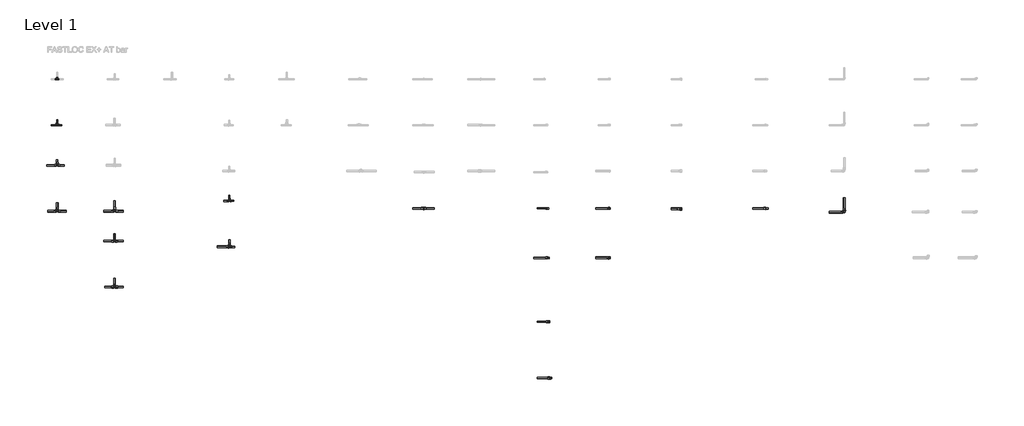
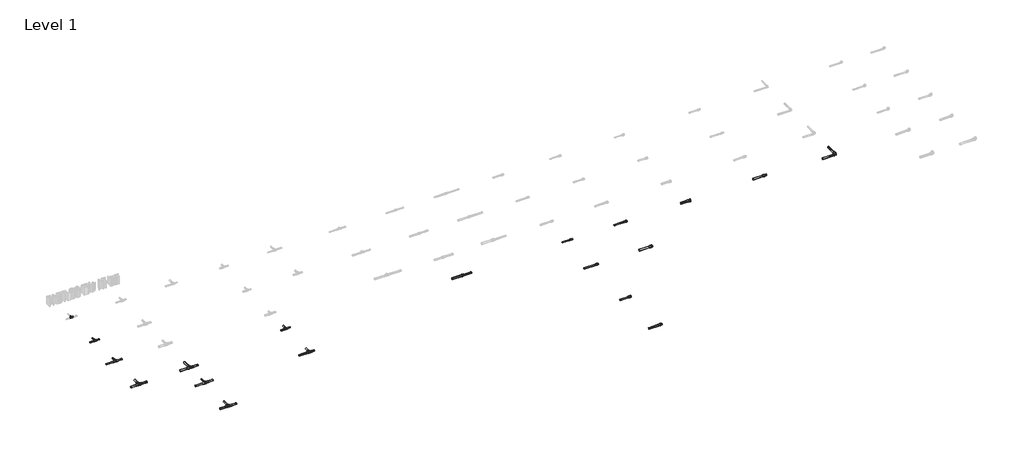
# One storey, part 1 of 16: 36 pipe segments, 19 pipe fittings.
"""IFC4 building model written with IfcOpenShell, lengths in millimetres."""

from ifc_helpers import new_model, si_unit, point, frame, frame_2d, origin, place, context, project, spatial, circle_curve, trimmed, segment, composite_curve, outline, extrude, transform, mapped, element, save
from components import pipe_fitting_378a86a2, pipe_fitting_26206a52, pipe_fitting_e85672de, pipe_fitting_bc9683d6, pipe_fitting_048a34f4, pipe_fitting_29655fe2, pipe_fitting_d5e3d02e, pipe_fitting_bff7a8e0, pipe_fitting_e188583c, pipe_fitting_cd4c1f98, pipe_fitting_85239123, pipe_fitting_8464d15c, pipe_fitting_a2f8d1bd, pipe_fitting_ed7d2527, pipe_fitting_034b971a, pipe_fitting_5e5bb3cb, pipe_fitting_b159315d, pipe_fitting_1c80bece

model = new_model("IFC4")

# Units and contexts
model_context = context("Model", 3, world=origin())
ifc_project = project(units=[si_unit("LENGTHUNIT", "METRE", prefix="MILLI")], contexts=[model_context])

# Site, building, storey
site = spatial("IfcSite", under=ifc_project)
building = spatial("IfcBuilding", under=site)
storey = spatial("IfcBuildingStorey", under=building, Name="Level 1", Elevation=0.0)

# Pipe fittings
placement = place(None, origin())
pipe_fitting_shape = pipe_fitting_378a86a2(model_context)
element("IfcPipeFitting", 1, ObjectType="FASTLOC_T-piece_EX+ : FSL T-Piece EX+ AT", at=placement, inside=storey, context=model_context, shape_type="MappedRepresentation", body=[
    mapped(pipe_fitting_shape, transform((1562.9146925, -6287.6479967, 0.0), x_axis=(1.0, 0.0, 0.0), y_axis=(0.0, 1.0, 0.0), z_axis=(0.0, 0.0, 1.0))),
])
pipe_fitting_2_shape = pipe_fitting_26206a52(model_context)
element("IfcPipeFitting", 2, ObjectType="FASTLOC_T-piece_EX+ : FSL T-Piece EX+ AT", at=placement, inside=storey, context=model_context, shape_type="MappedRepresentation", body=[
    mapped(pipe_fitting_2_shape, transform((1562.9146925, -7087.6479967, 0.0), x_axis=(1.0, 0.0, 0.0), y_axis=(0.0, 1.0, 0.0), z_axis=(0.0, 0.0, 1.0))),
])
pipe_fitting_3_shape = pipe_fitting_e85672de(model_context)
element("IfcPipeFitting", 3, ObjectType="FASTLOC_T-piece_EX+ : FSL T-Piece EX+ AT", at=placement, inside=storey, context=model_context, shape_type="MappedRepresentation", body=[
    mapped(pipe_fitting_3_shape, transform((1562.9146925, -7787.6479967, 0.0), x_axis=(1.0, 0.0, 0.0), y_axis=(0.0, 1.0, 0.0), z_axis=(0.0, 0.0, 1.0))),
])
pipe_fitting_4_shape = pipe_fitting_bc9683d6(model_context)
element("IfcPipeFitting", 4, ObjectType="FASTLOC_T-piece_EX+ : FSL T-Piece EX+ AT", at=placement, inside=storey, context=model_context, shape_type="MappedRepresentation", body=[
    mapped(pipe_fitting_4_shape, transform((1562.9146925, -8587.6479967, 0.0), x_axis=(1.0, 0.0, 0.0), y_axis=(0.0, 1.0, 0.0), z_axis=(0.0, 0.0, 1.0))),
])
element("IfcPipeFitting", 5, ObjectType="FASTLOC_T-piece_EX+ : FSL T-Piece EX+ AT", at=placement, inside=storey, context=model_context, shape_type="MappedRepresentation", body=[
    mapped(pipe_fitting_4_shape, transform((2562.9146925, -8587.6479967, 0.0), x_axis=(1.0, 0.0, 0.0), y_axis=(0.0, 1.0, 0.0), z_axis=(0.0, 0.0, 1.0))),
])
pipe_fitting_5_shape = pipe_fitting_048a34f4(model_context)
element("IfcPipeFitting", 6, ObjectType="FASTLOC_T-piece_EX+ : FSL T-Piece EX+ AT", at=placement, inside=storey, context=model_context, shape_type="MappedRepresentation", body=[
    mapped(pipe_fitting_5_shape, transform((2562.9146925, -9107.6479967, 0.0), x_axis=(1.0, 0.0, 0.0), y_axis=(0.0, 1.0, 0.0), z_axis=(0.0, 0.0, 1.0))),
])
pipe_fitting_6_shape = pipe_fitting_29655fe2(model_context)
element("IfcPipeFitting", 7, ObjectType="FASTLOC_T-piece_EX+ : FSL T-Piece EX+ AT", at=placement, inside=storey, context=model_context, shape_type="MappedRepresentation", body=[
    mapped(pipe_fitting_6_shape, transform((2562.9146925, -9907.6479967, 0.0), x_axis=(1.0, 0.0, 0.0), y_axis=(0.0, 1.0, 0.0), z_axis=(0.0, 0.0, 1.0))),
])
pipe_fitting_7_shape = pipe_fitting_d5e3d02e(model_context)
element("IfcPipeFitting", 8, ObjectType="FASTLOC_T-piece_EX+ : FSL T-Piece EX+ AT", at=placement, inside=storey, context=model_context, shape_type="MappedRepresentation", body=[
    mapped(pipe_fitting_7_shape, transform((4562.9146925, -9207.6479967, 0.0), x_axis=(1.0, 0.0, 0.0), y_axis=(0.0, 1.0, 0.0), z_axis=(0.0, 0.0, 1.0))),
])
pipe_fitting_8_shape = pipe_fitting_bff7a8e0(model_context)
element("IfcPipeFitting", 9, ObjectType="FASTLOC_T-piece_EX+ : FSL T-Piece EX+ AT", at=placement, inside=storey, context=model_context, shape_type="MappedRepresentation", body=[
    mapped(pipe_fitting_8_shape, transform((4562.9146925, -8407.6479967, 0.0), x_axis=(1.0, 0.0, 0.0), y_axis=(0.0, 1.0, 0.0), z_axis=(0.0, 0.0, 1.0))),
])
pipe_fitting_9_shape = pipe_fitting_e188583c(model_context)
element("IfcPipeFitting", 10, ObjectType="FASTLOC Copper press adapter RX+ : FSL RX+ AT", at=placement, inside=storey, context=model_context, shape_type="MappedRepresentation", body=[
    mapped(pipe_fitting_9_shape, transform((13915.3824015, -8539.0537829, 0.0), x_axis=(1.0, 0.0, 0.0), y_axis=(0.0, 1.0, 0.0), z_axis=(0.0, 0.0, 1.0))),
])
pipe_fitting_10_shape = pipe_fitting_cd4c1f98(model_context)
element("IfcPipeFitting", 11, ObjectType="FASTLOC_Adapter_EX+, with internal thread : FSL A internal AT", at=placement, inside=storey, context=model_context, shape_type="MappedRepresentation", body=[
    mapped(pipe_fitting_10_shape, transform((11179.5143796, -8539.0537829, 0.0), x_axis=(1.0, 0.0, 0.0), y_axis=(0.0, 1.0, 0.0), z_axis=(0.0, 0.0, 1.0))),
])
pipe_fitting_11_shape = pipe_fitting_85239123(model_context)
element("IfcPipeFitting", 12, ObjectType="FASTLOC_Adapter_EX+, with internal thread : FSL A internal AT", at=placement, inside=storey, context=model_context, shape_type="MappedRepresentation", body=[
    mapped(pipe_fitting_11_shape, transform((11179.5143796, -9399.407392, 0.0), x_axis=(1.0, 0.0, 0.0), y_axis=(0.0, 1.0, 0.0), z_axis=(0.0, 0.0, 1.0))),
])
pipe_fitting_12_shape = pipe_fitting_8464d15c(model_context)
element("IfcPipeFitting", 13, ObjectType="FASTLOC_Coupling equal EX+ : FSL C EX AT", at=placement, inside=storey, context=model_context, shape_type="MappedRepresentation", body=[
    mapped(pipe_fitting_12_shape, transform((7947.6401575, -8539.0537829, 0.0), x_axis=(1.0, 0.0, 0.0), y_axis=(0.0, 1.0, 0.0), z_axis=(0.0, 0.0, 1.0))),
])
pipe_fitting_13_shape = pipe_fitting_a2f8d1bd(model_context)
element("IfcPipeFitting", 14, ObjectType="FASTLOC_Corner EX+ : FSL C EX+ AT", at=placement, inside=storey, context=model_context, shape_type="MappedRepresentation", body=[
    mapped(pipe_fitting_13_shape, transform((15275.3824015, -8604.9640428, 0.0), x_axis=(1.0, 0.0, 0.0), y_axis=(0.0, 1.0, 0.0), z_axis=(0.0, 0.0, 1.0))),
])
pipe_fitting_14_shape = pipe_fitting_ed7d2527(model_context)
element("IfcPipeFitting", 15, ObjectType="FASTLOC_Adapter_RX+, with external thread : FSL A C external EX+ AT", at=placement, inside=storey, context=model_context, shape_type="MappedRepresentation", body=[
    mapped(pipe_fitting_14_shape, transform((10098.2332092, -8539.0537829, 0.0), x_axis=(1.0, 0.0, 0.0), y_axis=(0.0, 1.0, 0.0), z_axis=(0.0, 0.0, 1.0))),
])
pipe_fitting_15_shape = pipe_fitting_034b971a(model_context)
element("IfcPipeFitting", 16, ObjectType="FASTLOC_Adapter_RX+, with external thread : FSL A C external EX+ AT", at=placement, inside=storey, context=model_context, shape_type="MappedRepresentation", body=[
    mapped(pipe_fitting_15_shape, transform((10110.8952889, -9399.407392, 0.0), x_axis=(1.0, 0.0, 0.0), y_axis=(0.0, 1.0, 0.0), z_axis=(0.0, 0.0, 1.0))),
])
pipe_fitting_16_shape = pipe_fitting_5e5bb3cb(model_context)
element("IfcPipeFitting", 17, ObjectType="FASTLOC_Adapter_RX+, with external thread : FSL A C external EX+ AT", at=placement, inside=storey, context=model_context, shape_type="MappedRepresentation", body=[
    mapped(pipe_fitting_16_shape, transform((10115.9601208, -10513.6704117, 0.0), x_axis=(1.0, 0.0, 0.0), y_axis=(0.0, 1.0, 0.0), z_axis=(0.0, 0.0, 1.0))),
])
pipe_fitting_17_shape = pipe_fitting_b159315d(model_context)
element("IfcPipeFitting", 18, ObjectType="FASTLOC_Adapter_RX+, with external thread : FSL A C external EX+ AT", at=placement, inside=storey, context=model_context, shape_type="MappedRepresentation", body=[
    mapped(pipe_fitting_17_shape, transform((10153.9463601, -11493.7153858, 0.0), x_axis=(1.0, 0.0, 0.0), y_axis=(0.0, 1.0, 0.0), z_axis=(0.0, 0.0, 1.0))),
])
pipe_fitting_18_shape = pipe_fitting_1c80bece(model_context)
element("IfcPipeFitting", 19, ObjectType="FASTLOC_Adapter with union nut EX+ : FSL A union nut EX+ DE", at=placement, inside=storey, context=model_context, shape_type="MappedRepresentation", body=[
    mapped(pipe_fitting_18_shape, transform((12418.3503777, -8547.0537829, 0.0), x_axis=(1.0, 0.0, 0.0), y_axis=(0.0, 1.0, 0.0), z_axis=(0.0, 0.0, 1.0))),
])

# Pipe segments
element("IfcPipeSegment", 20, ObjectType="FASTLOC EX+ ML AT bar", at=placement, inside=storey, context=model_context, shape_type="SweptSolid", body=[
    extrude(outline(composite_curve([segment(trimmed(circle_curve(frame_2d((0.0, 15275.3824015)), 16.0), [point((0.0, 15291.3824015))], [point((16.0, 15275.3824015))], False, "CARTESIAN"), True, "CONTINUOUS"), segment(trimmed(circle_curve(frame_2d((0.0, 15275.3824015)), 16.0), [point((16.0, 15275.3824015))], [point((0.0, 15259.3824015))], False, "CARTESIAN"), True, "CONTINUOUS"), segment(trimmed(circle_curve(frame_2d((0.0, 15275.3824015)), 16.0), [point((0.0, 15259.3824015))], [point((-16.0, 15275.3824015))], False, "CARTESIAN"), True, "CONTINUOUS"), segment(trimmed(circle_curve(frame_2d((0.0, 15275.3824015)), 16.0), [point((-16.0, 15275.3824015))], [point((0.0, 15291.3824015))], False, "CARTESIAN"), True, "CONTINUOUS")], self_intersect=False)), frame((0.0, -8569.9640428, 0.0), z_axis=(0.0, 1.0, 0.0), x_axis=(0.0, 0.0, 1.0)), (0.0, 0.0, 1.0), 220.0),
])
element("IfcPipeSegment", 21, ObjectType="FASTLOC EX+ ML AT bar", at=placement, inside=storey, context=model_context, shape_type="SweptSolid", body=[
    extrude(outline(composite_curve([segment(trimmed(circle_curve(frame_2d((-8604.9640428, 0.0)), 16.0), [point((-8588.9640428, 0.0))], [point((-8604.9640428, -16.0))], False, "CARTESIAN"), True, "CONTINUOUS"), segment(trimmed(circle_curve(frame_2d((-8604.9640428, 0.0)), 16.0), [point((-8604.9640428, -16.0))], [point((-8620.9640428, 0.0))], False, "CARTESIAN"), True, "CONTINUOUS"), segment(trimmed(circle_curve(frame_2d((-8604.9640428, 0.0)), 16.0), [point((-8620.9640428, 0.0))], [point((-8604.9640428, 16.0))], False, "CARTESIAN"), True, "CONTINUOUS"), segment(trimmed(circle_curve(frame_2d((-8604.9640428, 0.0)), 16.0), [point((-8604.9640428, 16.0))], [point((-8588.9640428, 0.0))], False, "CARTESIAN"), True, "CONTINUOUS")], self_intersect=False)), frame((15013.2824015, 0.0, 0.0), z_axis=(1.0, 0.0, 0.0), x_axis=(0.0, 1.0, 0.0)), (0.0, 0.0, 1.0), 227.1),
])
element("IfcPipeSegment", 22, ObjectType="FASTLOC EX+ ML AT bar", at=placement, inside=storey, context=model_context, shape_type="SweptSolid", body=[
    extrude(outline(composite_curve([segment(trimmed(circle_curve(frame_2d((-8539.0537829, 0.0)), 16.0), [point((-8523.0537829, 0.0))], [point((-8539.0537829, -16.0))], False, "CARTESIAN"), True, "CONTINUOUS"), segment(trimmed(circle_curve(frame_2d((-8539.0537829, 0.0)), 16.0), [point((-8539.0537829, -16.0))], [point((-8555.0537829, 0.0))], False, "CARTESIAN"), True, "CONTINUOUS"), segment(trimmed(circle_curve(frame_2d((-8539.0537829, 0.0)), 16.0), [point((-8555.0537829, 0.0))], [point((-8539.0537829, 16.0))], False, "CARTESIAN"), True, "CONTINUOUS"), segment(trimmed(circle_curve(frame_2d((-8539.0537829, 0.0)), 16.0), [point((-8539.0537829, 16.0))], [point((-8523.0537829, 0.0))], False, "CARTESIAN"), True, "CONTINUOUS")], self_intersect=False)), frame((13682.2824015, 0.0, 0.0), z_axis=(1.0, 0.0, 0.0), x_axis=(0.0, 1.0, 0.0)), (0.0, 0.0, 1.0), 220.0),
])
element("IfcPipeSegment", 23, ObjectType="FASTLOC EX+ ML AT bar", at=placement, inside=storey, context=model_context, shape_type="SweptSolid", body=[
    extrude(outline(composite_curve([segment(trimmed(circle_curve(frame_2d((-8547.0537829, 0.0)), 16.0), [point((-8531.0537829, 0.0))], [point((-8547.0537829, -16.0))], False, "CARTESIAN"), True, "CONTINUOUS"), segment(trimmed(circle_curve(frame_2d((-8547.0537829, 0.0)), 16.0), [point((-8547.0537829, -16.0))], [point((-8563.0537829, 0.0))], False, "CARTESIAN"), True, "CONTINUOUS"), segment(trimmed(circle_curve(frame_2d((-8547.0537829, 0.0)), 16.0), [point((-8563.0537829, 0.0))], [point((-8547.0537829, 16.0))], False, "CARTESIAN"), True, "CONTINUOUS"), segment(trimmed(circle_curve(frame_2d((-8547.0537829, 0.0)), 16.0), [point((-8547.0537829, 16.0))], [point((-8531.0537829, 0.0))], False, "CARTESIAN"), True, "CONTINUOUS")], self_intersect=False)), frame((12259.3503777, 0.0, 0.0), z_axis=(1.0, 0.0, 0.0), x_axis=(0.0, 1.0, 0.0)), (0.0, 0.0, 1.0), 147.5),
])
element("IfcPipeSegment", 24, ObjectType="FASTLOC EX+ ML AT bar", at=placement, inside=storey, context=model_context, shape_type="SweptSolid", body=[
    extrude(outline(composite_curve([segment(trimmed(circle_curve(frame_2d((-8539.0537829, 0.0)), 12.5), [point((-8526.5537829, 0.0))], [point((-8539.0537829, -12.5))], False, "CARTESIAN"), True, "CONTINUOUS"), segment(trimmed(circle_curve(frame_2d((-8539.0537829, 0.0)), 12.5), [point((-8539.0537829, -12.5))], [point((-8551.5537829, 0.0))], False, "CARTESIAN"), True, "CONTINUOUS"), segment(trimmed(circle_curve(frame_2d((-8539.0537829, 0.0)), 12.5), [point((-8551.5537829, 0.0))], [point((-8539.0537829, 12.5))], False, "CARTESIAN"), True, "CONTINUOUS"), segment(trimmed(circle_curve(frame_2d((-8539.0537829, 0.0)), 12.5), [point((-8539.0537829, 12.5))], [point((-8526.5537829, 0.0))], False, "CARTESIAN"), True, "CONTINUOUS")], self_intersect=False)), frame((10946.6143796, 0.0, 0.0), z_axis=(1.0, 0.0, 0.0), x_axis=(0.0, 1.0, 0.0)), (0.0, 0.0, 1.0), 220.0),
])
element("IfcPipeSegment", 25, ObjectType="FASTLOC EX+ ML AT bar", at=placement, inside=storey, context=model_context, shape_type="SweptSolid", body=[
    extrude(outline(composite_curve([segment(trimmed(circle_curve(frame_2d((-9399.407392, 0.0)), 16.0), [point((-9383.407392, 0.0))], [point((-9399.407392, -16.0))], False, "CARTESIAN"), True, "CONTINUOUS"), segment(trimmed(circle_curve(frame_2d((-9399.407392, 0.0)), 16.0), [point((-9399.407392, -16.0))], [point((-9415.407392, 0.0))], False, "CARTESIAN"), True, "CONTINUOUS"), segment(trimmed(circle_curve(frame_2d((-9399.407392, 0.0)), 16.0), [point((-9415.407392, 0.0))], [point((-9399.407392, 16.0))], False, "CARTESIAN"), True, "CONTINUOUS"), segment(trimmed(circle_curve(frame_2d((-9399.407392, 0.0)), 16.0), [point((-9399.407392, 16.0))], [point((-9383.407392, 0.0))], False, "CARTESIAN"), True, "CONTINUOUS")], self_intersect=False)), frame((10946.6143796, 0.0, 0.0), z_axis=(1.0, 0.0, 0.0), x_axis=(0.0, 1.0, 0.0)), (0.0, 0.0, 1.0), 218.4),
])
element("IfcPipeSegment", 26, ObjectType="FASTLOC EX+ ML AT bar", at=placement, inside=storey, context=model_context, shape_type="SweptSolid", body=[
    extrude(outline(composite_curve([segment(trimmed(circle_curve(frame_2d((-10513.6704117, 0.0)), 12.5), [point((-10501.1704117, 0.0))], [point((-10513.6704117, -12.5))], False, "CARTESIAN"), True, "CONTINUOUS"), segment(trimmed(circle_curve(frame_2d((-10513.6704117, 0.0)), 12.5), [point((-10513.6704117, -12.5))], [point((-10526.1704117, 0.0))], False, "CARTESIAN"), True, "CONTINUOUS"), segment(trimmed(circle_curve(frame_2d((-10513.6704117, 0.0)), 12.5), [point((-10526.1704117, 0.0))], [point((-10513.6704117, 12.5))], False, "CARTESIAN"), True, "CONTINUOUS"), segment(trimmed(circle_curve(frame_2d((-10513.6704117, 0.0)), 12.5), [point((-10513.6704117, 12.5))], [point((-10501.1704117, 0.0))], False, "CARTESIAN"), True, "CONTINUOUS")], self_intersect=False)), frame((9926.5601208, 0.0, 0.0), z_axis=(1.0, 0.0, 0.0), x_axis=(0.0, 1.0, 0.0)), (0.0, 0.0, 1.0), 180.0),
])
element("IfcPipeSegment", 27, ObjectType="FASTLOC EX+ ML AT bar", at=placement, inside=storey, context=model_context, shape_type="SweptSolid", body=[
    extrude(outline(composite_curve([segment(trimmed(circle_curve(frame_2d((-9399.407392, 0.0)), 12.5), [point((-9386.907392, 0.0))], [point((-9399.407392, -12.5))], False, "CARTESIAN"), True, "CONTINUOUS"), segment(trimmed(circle_curve(frame_2d((-9399.407392, 0.0)), 12.5), [point((-9399.407392, -12.5))], [point((-9411.907392, 0.0))], False, "CARTESIAN"), True, "CONTINUOUS"), segment(trimmed(circle_curve(frame_2d((-9399.407392, 0.0)), 12.5), [point((-9411.907392, 0.0))], [point((-9399.407392, 12.5))], False, "CARTESIAN"), True, "CONTINUOUS"), segment(trimmed(circle_curve(frame_2d((-9399.407392, 0.0)), 12.5), [point((-9399.407392, 12.5))], [point((-9386.907392, 0.0))], False, "CARTESIAN"), True, "CONTINUOUS")], self_intersect=False)), frame((9861.4952889, 0.0, 0.0), z_axis=(1.0, 0.0, 0.0), x_axis=(0.0, 1.0, 0.0)), (0.0, 0.0, 1.0), 240.0),
])
element("IfcPipeSegment", 28, ObjectType="FASTLOC EX+ ML AT bar", at=placement, inside=storey, context=model_context, shape_type="SweptSolid", body=[
    extrude(outline(composite_curve([segment(trimmed(circle_curve(frame_2d((-8539.0537829, 0.0)), 10.0), [point((-8529.0537829, 0.0))], [point((-8539.0537829, -10.0))], False, "CARTESIAN"), True, "CONTINUOUS"), segment(trimmed(circle_curve(frame_2d((-8539.0537829, 0.0)), 10.0), [point((-8539.0537829, -10.0))], [point((-8549.0537829, 0.0))], False, "CARTESIAN"), True, "CONTINUOUS"), segment(trimmed(circle_curve(frame_2d((-8539.0537829, 0.0)), 10.0), [point((-8549.0537829, 0.0))], [point((-8539.0537829, 10.0))], False, "CARTESIAN"), True, "CONTINUOUS"), segment(trimmed(circle_curve(frame_2d((-8539.0537829, 0.0)), 10.0), [point((-8539.0537829, 10.0))], [point((-8529.0537829, 0.0))], False, "CARTESIAN"), True, "CONTINUOUS")], self_intersect=False)), frame((9926.5601208, 0.0, 0.0), z_axis=(1.0, 0.0, 0.0), x_axis=(0.0, 1.0, 0.0)), (0.0, 0.0, 1.0), 162.3730883),
])
element("IfcPipeSegment", 29, ObjectType="FASTLOC EX+ ML AT bar", at=placement, inside=storey, context=model_context, shape_type="SweptSolid", body=[
    extrude(outline(composite_curve([segment(trimmed(circle_curve(frame_2d((-8539.0537829, 0.0)), 16.0), [point((-8555.0537829, 0.0))], [point((-8539.0537829, 16.0))], False, "CARTESIAN"), True, "CONTINUOUS"), segment(trimmed(circle_curve(frame_2d((-8539.0537829, 0.0)), 16.0), [point((-8539.0537829, 16.0))], [point((-8523.0537829, 0.0))], False, "CARTESIAN"), True, "CONTINUOUS"), segment(trimmed(circle_curve(frame_2d((-8539.0537829, 0.0)), 16.0), [point((-8523.0537829, 0.0))], [point((-8539.0537829, -16.0))], False, "CARTESIAN"), True, "CONTINUOUS"), segment(trimmed(circle_curve(frame_2d((-8539.0537829, 0.0)), 16.0), [point((-8539.0537829, -16.0))], [point((-8555.0537829, 0.0))], False, "CARTESIAN"), True, "CONTINUOUS")], self_intersect=False)), frame((7957.6401575, 0.0, 0.0), z_axis=(1.0, 0.0, 0.0), x_axis=(0.0, 1.0, 0.0)), (0.0, 0.0, 1.0), 178.0),
])
element("IfcPipeSegment", 30, ObjectType="FASTLOC EX+ ML AT bar", at=placement, inside=storey, context=model_context, shape_type="SweptSolid", body=[
    extrude(outline(composite_curve([segment(trimmed(circle_curve(frame_2d((-8539.0537829, 0.0)), 16.0), [point((-8523.0537829, 0.0))], [point((-8539.0537829, -16.0))], False, "CARTESIAN"), True, "CONTINUOUS"), segment(trimmed(circle_curve(frame_2d((-8539.0537829, 0.0)), 16.0), [point((-8539.0537829, -16.0))], [point((-8555.0537829, 0.0))], False, "CARTESIAN"), True, "CONTINUOUS"), segment(trimmed(circle_curve(frame_2d((-8539.0537829, 0.0)), 16.0), [point((-8555.0537829, 0.0))], [point((-8539.0537829, 16.0))], False, "CARTESIAN"), True, "CONTINUOUS"), segment(trimmed(circle_curve(frame_2d((-8539.0537829, 0.0)), 16.0), [point((-8539.0537829, 16.0))], [point((-8523.0537829, 0.0))], False, "CARTESIAN"), True, "CONTINUOUS")], self_intersect=False)), frame((7757.6401575, 0.0, 0.0), z_axis=(1.0, 0.0, 0.0), x_axis=(0.0, 1.0, 0.0)), (0.0, 0.0, 1.0), 180.0),
])
element("IfcPipeSegment", 31, ObjectType="FASTLOC EX+ ML AT bar", at=placement, inside=storey, context=model_context, shape_type="SweptSolid", body=[
    extrude(outline(composite_curve([segment(trimmed(circle_curve(frame_2d((-8407.6479967, 0.0)), 10.0), [point((-8417.6479967, 0.0))], [point((-8407.6479967, 10.0))], False, "CARTESIAN"), True, "CONTINUOUS"), segment(trimmed(circle_curve(frame_2d((-8407.6479967, 0.0)), 10.0), [point((-8407.6479967, 10.0))], [point((-8397.6479967, 0.0))], False, "CARTESIAN"), True, "CONTINUOUS"), segment(trimmed(circle_curve(frame_2d((-8407.6479967, 0.0)), 10.0), [point((-8397.6479967, 0.0))], [point((-8407.6479967, -10.0))], False, "CARTESIAN"), True, "CONTINUOUS"), segment(trimmed(circle_curve(frame_2d((-8407.6479967, 0.0)), 10.0), [point((-8407.6479967, -10.0))], [point((-8417.6479967, 0.0))], False, "CARTESIAN"), True, "CONTINUOUS")], self_intersect=False)), frame((4580.3146925, 0.0, 0.0), z_axis=(1.0, 0.0, 0.0), x_axis=(0.0, 1.0, 0.0)), (0.0, 0.0, 1.0), 60.0),
])
element("IfcPipeSegment", 32, ObjectType="FASTLOC EX+ ML AT bar", at=placement, inside=storey, context=model_context, shape_type="SweptSolid", body=[
    extrude(outline(composite_curve([segment(trimmed(circle_curve(frame_2d((0.0, 4562.9146925)), 10.0), [point((0.0, 4572.9146925))], [point((10.0, 4562.9146925))], False, "CARTESIAN"), True, "CONTINUOUS"), segment(trimmed(circle_curve(frame_2d((0.0, 4562.9146925)), 10.0), [point((10.0, 4562.9146925))], [point((0.0, 4552.9146925))], False, "CARTESIAN"), True, "CONTINUOUS"), segment(trimmed(circle_curve(frame_2d((0.0, 4562.9146925)), 10.0), [point((0.0, 4552.9146925))], [point((-10.0, 4562.9146925))], False, "CARTESIAN"), True, "CONTINUOUS"), segment(trimmed(circle_curve(frame_2d((0.0, 4562.9146925)), 10.0), [point((-10.0, 4562.9146925))], [point((0.0, 4572.9146925))], False, "CARTESIAN"), True, "CONTINUOUS")], self_intersect=False)), frame((0.0, -8378.4479967, 0.0), z_axis=(0.0, 1.0, 0.0), x_axis=(0.0, 0.0, 1.0)), (0.0, 0.0, 1.0), 65.0),
])
element("IfcPipeSegment", 33, ObjectType="FASTLOC EX+ ML AT bar", at=placement, inside=storey, context=model_context, shape_type="SweptSolid", body=[
    extrude(outline(composite_curve([segment(trimmed(circle_curve(frame_2d((-8407.6479967, 0.0)), 12.5), [point((-8395.1479967, 0.0))], [point((-8407.6479967, -12.5))], False, "CARTESIAN"), True, "CONTINUOUS"), segment(trimmed(circle_curve(frame_2d((-8407.6479967, 0.0)), 12.5), [point((-8407.6479967, -12.5))], [point((-8420.1479967, 0.0))], False, "CARTESIAN"), True, "CONTINUOUS"), segment(trimmed(circle_curve(frame_2d((-8407.6479967, 0.0)), 12.5), [point((-8420.1479967, 0.0))], [point((-8407.6479967, 12.5))], False, "CARTESIAN"), True, "CONTINUOUS"), segment(trimmed(circle_curve(frame_2d((-8407.6479967, 0.0)), 12.5), [point((-8407.6479967, 12.5))], [point((-8395.1479967, 0.0))], False, "CARTESIAN"), True, "CONTINUOUS")], self_intersect=False)), frame((4464.6146925, 0.0, 0.0), z_axis=(1.0, 0.0, 0.0), x_axis=(0.0, 1.0, 0.0)), (0.0, 0.0, 1.0), 80.0),
])
element("IfcPipeSegment", 34, ObjectType="FASTLOC EX+ ML AT bar", at=placement, inside=storey, context=model_context, shape_type="SweptSolid", body=[
    extrude(outline(composite_curve([segment(trimmed(circle_curve(frame_2d((-9207.6479967, 0.0)), 12.5), [point((-9220.1479967, 0.0))], [point((-9207.6479967, 12.5))], False, "CARTESIAN"), True, "CONTINUOUS"), segment(trimmed(circle_curve(frame_2d((-9207.6479967, 0.0)), 12.5), [point((-9207.6479967, 12.5))], [point((-9195.1479967, 0.0))], False, "CARTESIAN"), True, "CONTINUOUS"), segment(trimmed(circle_curve(frame_2d((-9207.6479967, 0.0)), 12.5), [point((-9195.1479967, 0.0))], [point((-9207.6479967, -12.5))], False, "CARTESIAN"), True, "CONTINUOUS"), segment(trimmed(circle_curve(frame_2d((-9207.6479967, 0.0)), 12.5), [point((-9207.6479967, -12.5))], [point((-9220.1479967, 0.0))], False, "CARTESIAN"), True, "CONTINUOUS")], self_intersect=False)), frame((4583.0146925, 0.0, 0.0), z_axis=(1.0, 0.0, 0.0), x_axis=(0.0, 1.0, 0.0)), (0.0, 0.0, 1.0), 70.4),
])
element("IfcPipeSegment", 35, ObjectType="FASTLOC EX+ ML AT bar", at=placement, inside=storey, context=model_context, shape_type="SweptSolid", body=[
    extrude(outline(composite_curve([segment(trimmed(circle_curve(frame_2d((0.0, 4562.9146925)), 12.5), [point((0.0, 4575.4146925))], [point((12.5, 4562.9146925))], False, "CARTESIAN"), True, "CONTINUOUS"), segment(trimmed(circle_curve(frame_2d((0.0, 4562.9146925)), 12.5), [point((12.5, 4562.9146925))], [point((0.0, 4550.4146925))], False, "CARTESIAN"), True, "CONTINUOUS"), segment(trimmed(circle_curve(frame_2d((0.0, 4562.9146925)), 12.5), [point((0.0, 4550.4146925))], [point((-12.5, 4562.9146925))], False, "CARTESIAN"), True, "CONTINUOUS"), segment(trimmed(circle_curve(frame_2d((0.0, 4562.9146925)), 12.5), [point((-12.5, 4562.9146925))], [point((0.0, 4575.4146925))], False, "CARTESIAN"), True, "CONTINUOUS")], self_intersect=False)), frame((0.0, -9173.2479967, 0.0), z_axis=(0.0, 1.0, 0.0), x_axis=(0.0, 0.0, 1.0)), (0.0, 0.0, 1.0), 85.0),
])
element("IfcPipeSegment", 36, ObjectType="FASTLOC EX+ ML AT bar", at=placement, inside=storey, context=model_context, shape_type="SweptSolid", body=[
    extrude(outline(composite_curve([segment(trimmed(circle_curve(frame_2d((-9207.6479967, 0.0)), 16.0), [point((-9191.6479967, 0.0))], [point((-9207.6479967, -16.0))], False, "CARTESIAN"), True, "CONTINUOUS"), segment(trimmed(circle_curve(frame_2d((-9207.6479967, 0.0)), 16.0), [point((-9207.6479967, -16.0))], [point((-9223.6479967, 0.0))], False, "CARTESIAN"), True, "CONTINUOUS"), segment(trimmed(circle_curve(frame_2d((-9207.6479967, 0.0)), 16.0), [point((-9223.6479967, 0.0))], [point((-9207.6479967, 16.0))], False, "CARTESIAN"), True, "CONTINUOUS"), segment(trimmed(circle_curve(frame_2d((-9207.6479967, 0.0)), 16.0), [point((-9207.6479967, 16.0))], [point((-9191.6479967, 0.0))], False, "CARTESIAN"), True, "CONTINUOUS")], self_intersect=False)), frame((4355.8146925, 0.0, 0.0), z_axis=(1.0, 0.0, 0.0), x_axis=(0.0, 1.0, 0.0)), (0.0, 0.0, 1.0), 185.0),
])
element("IfcPipeSegment", 37, ObjectType="FASTLOC EX+ ML AT bar", at=placement, inside=storey, context=model_context, shape_type="SweptSolid", body=[
    extrude(outline(composite_curve([segment(trimmed(circle_curve(frame_2d((-8587.6479967, 0.0)), 16.0), [point((-8603.6479967, 0.0))], [point((-8587.6479967, 16.0))], False, "CARTESIAN"), True, "CONTINUOUS"), segment(trimmed(circle_curve(frame_2d((-8587.6479967, 0.0)), 16.0), [point((-8587.6479967, 16.0))], [point((-8571.6479967, 0.0))], False, "CARTESIAN"), True, "CONTINUOUS"), segment(trimmed(circle_curve(frame_2d((-8587.6479967, 0.0)), 16.0), [point((-8571.6479967, 0.0))], [point((-8587.6479967, -16.0))], False, "CARTESIAN"), True, "CONTINUOUS"), segment(trimmed(circle_curve(frame_2d((-8587.6479967, 0.0)), 16.0), [point((-8587.6479967, -16.0))], [point((-8603.6479967, 0.0))], False, "CARTESIAN"), True, "CONTINUOUS")], self_intersect=False)), frame((2587.7146925, 0.0, 0.0), z_axis=(1.0, 0.0, 0.0), x_axis=(0.0, 1.0, 0.0)), (0.0, 0.0, 1.0), 130.0),
])
element("IfcPipeSegment", 38, ObjectType="FASTLOC EX+ ML AT bar", at=placement, inside=storey, context=model_context, shape_type="SweptSolid", body=[
    extrude(outline(composite_curve([segment(trimmed(circle_curve(frame_2d((0.0, 2562.9146925)), 16.0), [point((0.0, 2578.9146925))], [point((16.0, 2562.9146925))], False, "CARTESIAN"), True, "CONTINUOUS"), segment(trimmed(circle_curve(frame_2d((0.0, 2562.9146925)), 16.0), [point((16.0, 2562.9146925))], [point((0.0, 2546.9146925))], False, "CARTESIAN"), True, "CONTINUOUS"), segment(trimmed(circle_curve(frame_2d((0.0, 2562.9146925)), 16.0), [point((0.0, 2546.9146925))], [point((-16.0, 2562.9146925))], False, "CARTESIAN"), True, "CONTINUOUS"), segment(trimmed(circle_curve(frame_2d((0.0, 2562.9146925)), 16.0), [point((-16.0, 2562.9146925))], [point((0.0, 2578.9146925))], False, "CARTESIAN"), True, "CONTINUOUS")], self_intersect=False)), frame((0.0, -8551.5479967, 0.0), z_axis=(0.0, 1.0, 0.0), x_axis=(0.0, 0.0, 1.0)), (0.0, 0.0, 1.0), 145.0),
])
element("IfcPipeSegment", 39, ObjectType="FASTLOC EX+ ML AT bar", at=placement, inside=storey, context=model_context, shape_type="SweptSolid", body=[
    extrude(outline(composite_curve([segment(trimmed(circle_curve(frame_2d((-8587.6479967, 0.0)), 16.0), [point((-8571.6479967, 0.0))], [point((-8587.6479967, -16.0))], False, "CARTESIAN"), True, "CONTINUOUS"), segment(trimmed(circle_curve(frame_2d((-8587.6479967, 0.0)), 16.0), [point((-8587.6479967, -16.0))], [point((-8603.6479967, 0.0))], False, "CARTESIAN"), True, "CONTINUOUS"), segment(trimmed(circle_curve(frame_2d((-8587.6479967, 0.0)), 16.0), [point((-8603.6479967, 0.0))], [point((-8587.6479967, 16.0))], False, "CARTESIAN"), True, "CONTINUOUS"), segment(trimmed(circle_curve(frame_2d((-8587.6479967, 0.0)), 16.0), [point((-8587.6479967, 16.0))], [point((-8571.6479967, 0.0))], False, "CARTESIAN"), True, "CONTINUOUS")], self_intersect=False)), frame((2373.1146925, 0.0, 0.0), z_axis=(1.0, 0.0, 0.0), x_axis=(0.0, 1.0, 0.0)), (0.0, 0.0, 1.0), 165.0),
])
element("IfcPipeSegment", 40, ObjectType="FASTLOC EX+ ML AT bar", at=placement, inside=storey, context=model_context, shape_type="SweptSolid", body=[
    extrude(outline(composite_curve([segment(trimmed(circle_curve(frame_2d((-9107.6479967, 0.0)), 16.0), [point((-9123.6479967, 0.0))], [point((-9107.6479967, 16.0))], False, "CARTESIAN"), True, "CONTINUOUS"), segment(trimmed(circle_curve(frame_2d((-9107.6479967, 0.0)), 16.0), [point((-9107.6479967, 16.0))], [point((-9091.6479967, 0.0))], False, "CARTESIAN"), True, "CONTINUOUS"), segment(trimmed(circle_curve(frame_2d((-9107.6479967, 0.0)), 16.0), [point((-9091.6479967, 0.0))], [point((-9107.6479967, -16.0))], False, "CARTESIAN"), True, "CONTINUOUS"), segment(trimmed(circle_curve(frame_2d((-9107.6479967, 0.0)), 16.0), [point((-9107.6479967, -16.0))], [point((-9123.6479967, 0.0))], False, "CARTESIAN"), True, "CONTINUOUS")], self_intersect=False)), frame((2583.1146925, 0.0, 0.0), z_axis=(1.0, 0.0, 0.0), x_axis=(0.0, 1.0, 0.0)), (0.0, 0.0, 1.0), 134.6),
])
element("IfcPipeSegment", 41, ObjectType="FASTLOC EX+ ML AT bar", at=placement, inside=storey, context=model_context, shape_type="SweptSolid", body=[
    extrude(outline(composite_curve([segment(trimmed(circle_curve(frame_2d((-9107.6479967, 0.0)), 16.0), [point((-9091.6479967, 0.0))], [point((-9107.6479967, -16.0))], False, "CARTESIAN"), True, "CONTINUOUS"), segment(trimmed(circle_curve(frame_2d((-9107.6479967, 0.0)), 16.0), [point((-9107.6479967, -16.0))], [point((-9123.6479967, 0.0))], False, "CARTESIAN"), True, "CONTINUOUS"), segment(trimmed(circle_curve(frame_2d((-9107.6479967, 0.0)), 16.0), [point((-9123.6479967, 0.0))], [point((-9107.6479967, 16.0))], False, "CARTESIAN"), True, "CONTINUOUS"), segment(trimmed(circle_curve(frame_2d((-9107.6479967, 0.0)), 16.0), [point((-9107.6479967, 16.0))], [point((-9091.6479967, 0.0))], False, "CARTESIAN"), True, "CONTINUOUS")], self_intersect=False)), frame((2373.1146925, 0.0, 0.0), z_axis=(1.0, 0.0, 0.0), x_axis=(0.0, 1.0, 0.0)), (0.0, 0.0, 1.0), 169.6),
])
element("IfcPipeSegment", 42, ObjectType="FASTLOC EX+ ML AT bar", at=placement, inside=storey, context=model_context, shape_type="SweptSolid", body=[
    extrude(outline(composite_curve([segment(trimmed(circle_curve(frame_2d((0.0, 2562.9146925)), 10.0), [point((0.0, 2572.9146925))], [point((10.0, 2562.9146925))], False, "CARTESIAN"), True, "CONTINUOUS"), segment(trimmed(circle_curve(frame_2d((0.0, 2562.9146925)), 10.0), [point((10.0, 2562.9146925))], [point((0.0, 2552.9146925))], False, "CARTESIAN"), True, "CONTINUOUS"), segment(trimmed(circle_curve(frame_2d((0.0, 2562.9146925)), 10.0), [point((0.0, 2552.9146925))], [point((-10.0, 2562.9146925))], False, "CARTESIAN"), True, "CONTINUOUS"), segment(trimmed(circle_curve(frame_2d((0.0, 2562.9146925)), 10.0), [point((-10.0, 2562.9146925))], [point((0.0, 2572.9146925))], False, "CARTESIAN"), True, "CONTINUOUS")], self_intersect=False)), frame((0.0, -9073.6479967, 0.0), z_axis=(0.0, 1.0, 0.0), x_axis=(0.0, 0.0, 1.0)), (0.0, 0.0, 1.0), 90.0),
])
element("IfcPipeSegment", 43, ObjectType="FASTLOC EX+ ML AT bar", at=placement, inside=storey, context=model_context, shape_type="SweptSolid", body=[
    extrude(outline(composite_curve([segment(trimmed(circle_curve(frame_2d((-9907.6479967, 0.0)), 16.0), [point((-9923.6479967, 0.0))], [point((-9907.6479967, 16.0))], False, "CARTESIAN"), True, "CONTINUOUS"), segment(trimmed(circle_curve(frame_2d((-9907.6479967, 0.0)), 16.0), [point((-9907.6479967, 16.0))], [point((-9891.6479967, 0.0))], False, "CARTESIAN"), True, "CONTINUOUS"), segment(trimmed(circle_curve(frame_2d((-9907.6479967, 0.0)), 16.0), [point((-9891.6479967, 0.0))], [point((-9907.6479967, -16.0))], False, "CARTESIAN"), True, "CONTINUOUS"), segment(trimmed(circle_curve(frame_2d((-9907.6479967, 0.0)), 16.0), [point((-9907.6479967, -16.0))], [point((-9923.6479967, 0.0))], False, "CARTESIAN"), True, "CONTINUOUS")], self_intersect=False)), frame((2584.9146925, 0.0, 0.0), z_axis=(1.0, 0.0, 0.0), x_axis=(0.0, 1.0, 0.0)), (0.0, 0.0, 1.0), 132.8),
])
element("IfcPipeSegment", 44, ObjectType="FASTLOC EX+ ML AT bar", at=placement, inside=storey, context=model_context, shape_type="SweptSolid", body=[
    extrude(outline(composite_curve([segment(trimmed(circle_curve(frame_2d((-9907.6479967, 0.0)), 16.0), [point((-9891.6479967, 0.0))], [point((-9907.6479967, -16.0))], False, "CARTESIAN"), True, "CONTINUOUS"), segment(trimmed(circle_curve(frame_2d((-9907.6479967, 0.0)), 16.0), [point((-9907.6479967, -16.0))], [point((-9923.6479967, 0.0))], False, "CARTESIAN"), True, "CONTINUOUS"), segment(trimmed(circle_curve(frame_2d((-9907.6479967, 0.0)), 16.0), [point((-9923.6479967, 0.0))], [point((-9907.6479967, 16.0))], False, "CARTESIAN"), True, "CONTINUOUS"), segment(trimmed(circle_curve(frame_2d((-9907.6479967, 0.0)), 16.0), [point((-9907.6479967, 16.0))], [point((-9891.6479967, 0.0))], False, "CARTESIAN"), True, "CONTINUOUS")], self_intersect=False)), frame((2395.9146925, 0.0, 0.0), z_axis=(1.0, 0.0, 0.0), x_axis=(0.0, 1.0, 0.0)), (0.0, 0.0, 1.0), 145.0),
])
element("IfcPipeSegment", 45, ObjectType="FASTLOC EX+ ML AT bar", at=placement, inside=storey, context=model_context, shape_type="SweptSolid", body=[
    extrude(outline(composite_curve([segment(trimmed(circle_curve(frame_2d((0.0, 2562.9146925)), 12.5), [point((0.0, 2575.4146925))], [point((12.5, 2562.9146925))], False, "CARTESIAN"), True, "CONTINUOUS"), segment(trimmed(circle_curve(frame_2d((0.0, 2562.9146925)), 12.5), [point((12.5, 2562.9146925))], [point((0.0, 2550.4146925))], False, "CARTESIAN"), True, "CONTINUOUS"), segment(trimmed(circle_curve(frame_2d((0.0, 2562.9146925)), 12.5), [point((0.0, 2550.4146925))], [point((-12.5, 2562.9146925))], False, "CARTESIAN"), True, "CONTINUOUS"), segment(trimmed(circle_curve(frame_2d((0.0, 2562.9146925)), 12.5), [point((-12.5, 2562.9146925))], [point((0.0, 2575.4146925))], False, "CARTESIAN"), True, "CONTINUOUS")], self_intersect=False)), frame((0.0, -9873.2479967, 0.0), z_axis=(0.0, 1.0, 0.0), x_axis=(0.0, 0.0, 1.0)), (0.0, 0.0, 1.0), 120.0),
])
element("IfcPipeSegment", 46, ObjectType="FASTLOC EX+ ML AT bar", at=placement, inside=storey, context=model_context, shape_type="SweptSolid", body=[
    extrude(outline(composite_curve([segment(trimmed(circle_curve(frame_2d((-8587.6479967, 0.0)), 16.0), [point((-8603.6479967, 0.0))], [point((-8587.6479967, 16.0))], False, "CARTESIAN"), True, "CONTINUOUS"), segment(trimmed(circle_curve(frame_2d((-8587.6479967, 0.0)), 16.0), [point((-8587.6479967, 16.0))], [point((-8571.6479967, 0.0))], False, "CARTESIAN"), True, "CONTINUOUS"), segment(trimmed(circle_curve(frame_2d((-8587.6479967, 0.0)), 16.0), [point((-8571.6479967, 0.0))], [point((-8587.6479967, -16.0))], False, "CARTESIAN"), True, "CONTINUOUS"), segment(trimmed(circle_curve(frame_2d((-8587.6479967, 0.0)), 16.0), [point((-8587.6479967, -16.0))], [point((-8603.6479967, 0.0))], False, "CARTESIAN"), True, "CONTINUOUS")], self_intersect=False)), frame((1587.7146925, 0.0, 0.0), z_axis=(1.0, 0.0, 0.0), x_axis=(0.0, 1.0, 0.0)), (0.0, 0.0, 1.0), 130.0),
])
element("IfcPipeSegment", 47, ObjectType="FASTLOC EX+ ML AT bar", at=placement, inside=storey, context=model_context, shape_type="SweptSolid", body=[
    extrude(outline(composite_curve([segment(trimmed(circle_curve(frame_2d((-8587.6479967, 0.0)), 16.0), [point((-8571.6479967, 0.0))], [point((-8587.6479967, -16.0))], False, "CARTESIAN"), True, "CONTINUOUS"), segment(trimmed(circle_curve(frame_2d((-8587.6479967, 0.0)), 16.0), [point((-8587.6479967, -16.0))], [point((-8603.6479967, 0.0))], False, "CARTESIAN"), True, "CONTINUOUS"), segment(trimmed(circle_curve(frame_2d((-8587.6479967, 0.0)), 16.0), [point((-8603.6479967, 0.0))], [point((-8587.6479967, 16.0))], False, "CARTESIAN"), True, "CONTINUOUS"), segment(trimmed(circle_curve(frame_2d((-8587.6479967, 0.0)), 16.0), [point((-8587.6479967, 16.0))], [point((-8571.6479967, 0.0))], False, "CARTESIAN"), True, "CONTINUOUS")], self_intersect=False)), frame((1403.1146925, 0.0, 0.0), z_axis=(1.0, 0.0, 0.0), x_axis=(0.0, 1.0, 0.0)), (0.0, 0.0, 1.0), 135.0),
])
element("IfcPipeSegment", 48, ObjectType="FASTLOC EX+ ML AT bar", at=placement, inside=storey, context=model_context, shape_type="SweptSolid", body=[
    extrude(outline(composite_curve([segment(trimmed(circle_curve(frame_2d((0.0, 1562.9146925)), 16.0), [point((0.0, 1578.9146925))], [point((16.0, 1562.9146925))], False, "CARTESIAN"), True, "CONTINUOUS"), segment(trimmed(circle_curve(frame_2d((0.0, 1562.9146925)), 16.0), [point((16.0, 1562.9146925))], [point((0.0, 1546.9146925))], False, "CARTESIAN"), True, "CONTINUOUS"), segment(trimmed(circle_curve(frame_2d((0.0, 1562.9146925)), 16.0), [point((0.0, 1546.9146925))], [point((-16.0, 1562.9146925))], False, "CARTESIAN"), True, "CONTINUOUS"), segment(trimmed(circle_curve(frame_2d((0.0, 1562.9146925)), 16.0), [point((-16.0, 1562.9146925))], [point((0.0, 1578.9146925))], False, "CARTESIAN"), True, "CONTINUOUS")], self_intersect=False)), frame((0.0, -8551.5479967, 0.0), z_axis=(0.0, 1.0, 0.0), x_axis=(0.0, 0.0, 1.0)), (0.0, 0.0, 1.0), 115.0),
])
element("IfcPipeSegment", 49, ObjectType="FASTLOC EX+ ML AT bar", at=placement, inside=storey, context=model_context, shape_type="SweptSolid", body=[
    extrude(outline(composite_curve([segment(trimmed(circle_curve(frame_2d((0.0, 1562.9146925)), 12.5), [point((0.0, 1575.4146925))], [point((12.5, 1562.9146925))], False, "CARTESIAN"), True, "CONTINUOUS"), segment(trimmed(circle_curve(frame_2d((0.0, 1562.9146925)), 12.5), [point((12.5, 1562.9146925))], [point((0.0, 1550.4146925))], False, "CARTESIAN"), True, "CONTINUOUS"), segment(trimmed(circle_curve(frame_2d((0.0, 1562.9146925)), 12.5), [point((0.0, 1550.4146925))], [point((-12.5, 1562.9146925))], False, "CARTESIAN"), True, "CONTINUOUS"), segment(trimmed(circle_curve(frame_2d((0.0, 1562.9146925)), 12.5), [point((-12.5, 1562.9146925))], [point((0.0, 1575.4146925))], False, "CARTESIAN"), True, "CONTINUOUS")], self_intersect=False)), frame((0.0, -7758.1479967, 0.0), z_axis=(0.0, 1.0, 0.0), x_axis=(0.0, 0.0, 1.0)), (0.0, 0.0, 1.0), 70.0),
])
element("IfcPipeSegment", 50, ObjectType="FASTLOC EX+ ML AT bar", at=placement, inside=storey, context=model_context, shape_type="SweptSolid", body=[
    extrude(outline(composite_curve([segment(trimmed(circle_curve(frame_2d((-7787.6479967, 0.0)), 12.5), [point((-7800.1479967, 0.0))], [point((-7787.6479967, 12.5))], False, "CARTESIAN"), True, "CONTINUOUS"), segment(trimmed(circle_curve(frame_2d((-7787.6479967, 0.0)), 12.5), [point((-7787.6479967, 12.5))], [point((-7775.1479967, 0.0))], False, "CARTESIAN"), True, "CONTINUOUS"), segment(trimmed(circle_curve(frame_2d((-7787.6479967, 0.0)), 12.5), [point((-7775.1479967, 0.0))], [point((-7787.6479967, -12.5))], False, "CARTESIAN"), True, "CONTINUOUS"), segment(trimmed(circle_curve(frame_2d((-7787.6479967, 0.0)), 12.5), [point((-7787.6479967, -12.5))], [point((-7800.1479967, 0.0))], False, "CARTESIAN"), True, "CONTINUOUS")], self_intersect=False)), frame((1582.8146925, 0.0, 0.0), z_axis=(1.0, 0.0, 0.0), x_axis=(0.0, 1.0, 0.0)), (0.0, 0.0, 1.0), 105.0),
])
element("IfcPipeSegment", 51, ObjectType="FASTLOC EX+ ML AT bar", at=placement, inside=storey, context=model_context, shape_type="SweptSolid", body=[
    extrude(outline(composite_curve([segment(trimmed(circle_curve(frame_2d((-7787.6479967, 0.0)), 12.5), [point((-7775.1479967, 0.0))], [point((-7787.6479967, -12.5))], False, "CARTESIAN"), True, "CONTINUOUS"), segment(trimmed(circle_curve(frame_2d((-7787.6479967, 0.0)), 12.5), [point((-7787.6479967, -12.5))], [point((-7800.1479967, 0.0))], False, "CARTESIAN"), True, "CONTINUOUS"), segment(trimmed(circle_curve(frame_2d((-7787.6479967, 0.0)), 12.5), [point((-7800.1479967, 0.0))], [point((-7787.6479967, 12.5))], False, "CARTESIAN"), True, "CONTINUOUS"), segment(trimmed(circle_curve(frame_2d((-7787.6479967, 0.0)), 12.5), [point((-7787.6479967, 12.5))], [point((-7775.1479967, 0.0))], False, "CARTESIAN"), True, "CONTINUOUS")], self_intersect=False)), frame((1378.0146925, 0.0, 0.0), z_axis=(1.0, 0.0, 0.0), x_axis=(0.0, 1.0, 0.0)), (0.0, 0.0, 1.0), 165.0),
])
element("IfcPipeSegment", 52, ObjectType="FASTLOC EX+ ML AT bar", at=placement, inside=storey, context=model_context, shape_type="SweptSolid", body=[
    extrude(outline(composite_curve([segment(trimmed(circle_curve(frame_2d((-7087.6479967, 0.0)), 10.0), [point((-7097.6479967, 0.0))], [point((-7087.6479967, 10.0))], False, "CARTESIAN"), True, "CONTINUOUS"), segment(trimmed(circle_curve(frame_2d((-7087.6479967, 0.0)), 10.0), [point((-7087.6479967, 10.0))], [point((-7077.6479967, 0.0))], False, "CARTESIAN"), True, "CONTINUOUS"), segment(trimmed(circle_curve(frame_2d((-7087.6479967, 0.0)), 10.0), [point((-7077.6479967, 0.0))], [point((-7087.6479967, -10.0))], False, "CARTESIAN"), True, "CONTINUOUS"), segment(trimmed(circle_curve(frame_2d((-7087.6479967, 0.0)), 10.0), [point((-7087.6479967, -10.0))], [point((-7097.6479967, 0.0))], False, "CARTESIAN"), True, "CONTINUOUS")], self_intersect=False)), frame((1580.1146925, 0.0, 0.0), z_axis=(1.0, 0.0, 0.0), x_axis=(0.0, 1.0, 0.0)), (0.0, 0.0, 1.0), 65.0),
])
element("IfcPipeSegment", 53, ObjectType="FASTLOC EX+ ML AT bar", at=placement, inside=storey, context=model_context, shape_type="SweptSolid", body=[
    extrude(outline(composite_curve([segment(trimmed(circle_curve(frame_2d((0.0, 1562.9146925)), 10.0), [point((0.0, 1572.9146925))], [point((10.0, 1562.9146925))], False, "CARTESIAN"), True, "CONTINUOUS"), segment(trimmed(circle_curve(frame_2d((0.0, 1562.9146925)), 10.0), [point((10.0, 1562.9146925))], [point((0.0, 1552.9146925))], False, "CARTESIAN"), True, "CONTINUOUS"), segment(trimmed(circle_curve(frame_2d((0.0, 1562.9146925)), 10.0), [point((0.0, 1552.9146925))], [point((-10.0, 1562.9146925))], False, "CARTESIAN"), True, "CONTINUOUS"), segment(trimmed(circle_curve(frame_2d((0.0, 1562.9146925)), 10.0), [point((-10.0, 1562.9146925))], [point((0.0, 1572.9146925))], False, "CARTESIAN"), True, "CONTINUOUS")], self_intersect=False)), frame((0.0, -7061.2479967, 0.0), z_axis=(0.0, 1.0, 0.0), x_axis=(0.0, 0.0, 1.0)), (0.0, 0.0, 1.0), 65.0),
])
element("IfcPipeSegment", 54, ObjectType="FASTLOC EX+ ML AT bar", at=placement, inside=storey, context=model_context, shape_type="SweptSolid", body=[
    extrude(outline(composite_curve([segment(trimmed(circle_curve(frame_2d((-7087.6479967, 0.0)), 10.0), [point((-7077.6479967, 0.0))], [point((-7087.6479967, -10.0))], False, "CARTESIAN"), True, "CONTINUOUS"), segment(trimmed(circle_curve(frame_2d((-7087.6479967, 0.0)), 10.0), [point((-7087.6479967, -10.0))], [point((-7097.6479967, 0.0))], False, "CARTESIAN"), True, "CONTINUOUS"), segment(trimmed(circle_curve(frame_2d((-7087.6479967, 0.0)), 10.0), [point((-7097.6479967, 0.0))], [point((-7087.6479967, 10.0))], False, "CARTESIAN"), True, "CONTINUOUS"), segment(trimmed(circle_curve(frame_2d((-7087.6479967, 0.0)), 10.0), [point((-7087.6479967, 10.0))], [point((-7077.6479967, 0.0))], False, "CARTESIAN"), True, "CONTINUOUS")], self_intersect=False)), frame((1460.7146925, 0.0, 0.0), z_axis=(1.0, 0.0, 0.0), x_axis=(0.0, 1.0, 0.0)), (0.0, 0.0, 1.0), 85.0),
])
element("IfcPipeSegment", 55, ObjectType="FASTLOC EX+ ML AT bar", at=placement, inside=storey, context=model_context, shape_type="SweptSolid", body=[
    extrude(outline(composite_curve([segment(trimmed(circle_curve(frame_2d((-11493.7153858, 0.0)), 16.0), [point((-11477.7153858, 0.0))], [point((-11493.7153858, -16.0))], False, "CARTESIAN"), True, "CONTINUOUS"), segment(trimmed(circle_curve(frame_2d((-11493.7153858, 0.0)), 16.0), [point((-11493.7153858, -16.0))], [point((-11509.7153858, 0.0))], False, "CARTESIAN"), True, "CONTINUOUS"), segment(trimmed(circle_curve(frame_2d((-11493.7153858, 0.0)), 16.0), [point((-11509.7153858, 0.0))], [point((-11493.7153858, 16.0))], False, "CARTESIAN"), True, "CONTINUOUS"), segment(trimmed(circle_curve(frame_2d((-11493.7153858, 0.0)), 16.0), [point((-11493.7153858, 16.0))], [point((-11477.7153858, 0.0))], False, "CARTESIAN"), True, "CONTINUOUS")], self_intersect=False)), frame((9926.5601208, 0.0, 0.0), z_axis=(1.0, 0.0, 0.0), x_axis=(0.0, 1.0, 0.0)), (0.0, 0.0, 1.0), 212.7862393),
])

save(model, "model.ifc")
